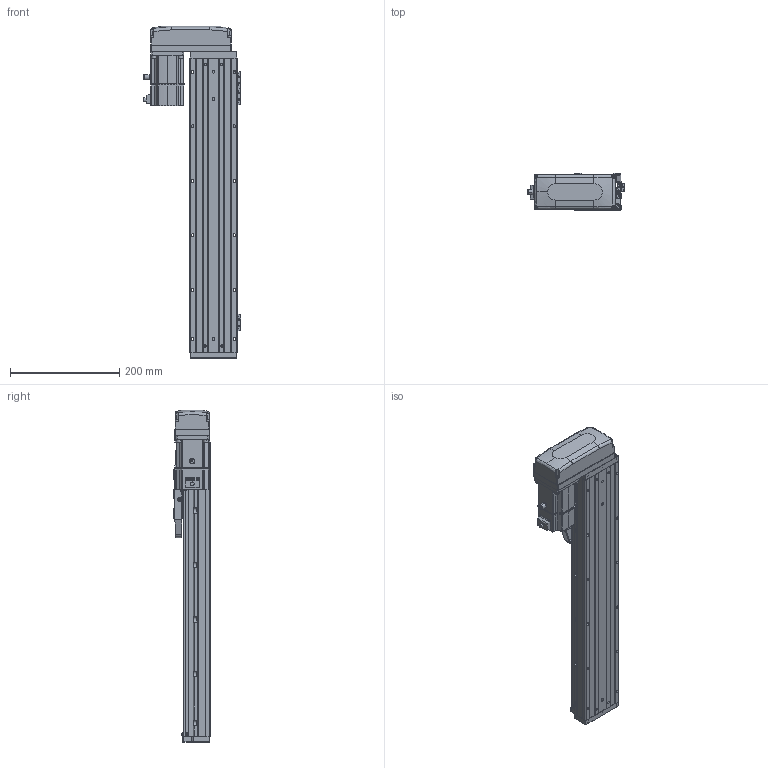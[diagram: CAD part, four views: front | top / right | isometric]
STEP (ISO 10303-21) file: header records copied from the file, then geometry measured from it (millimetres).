
FILE_DESCRIPTION (( 'STEP AP203' ), '1' );
FILE_NAME ('CTHA86-350-BR-M20-C4L.step', '2022-04-26T00:59:39', ( '微软用户' ), ( '微软中国' ), 'SwSTEP 2.0', 'SolidWorks 2020', '' );
FILE_SCHEMA (( 'CONFIG_CONTROL_DESIGN' ));
Length unit declared in the file: millimetre
Products named in the file (21): EE_SX911P_R; GBT 70.1-M3℅6; CTHA86-033; CTHA60-017; CTHA60-016; CTHA86-350-BR-M20-C4L; CTHA60-021; _X2_4E0983F1_X0_200W_1; KTHA86-001_540; GBT77-2000 M3×3; CTHA86-002; KTHA86-004; GBT 70.1-M3×20; CTHA86-030; CTHA86-031; KTHA86-005; GBT70.1 M5℅16; GBT 70.3-M3℅6; GB¨uT 70.2-M3¡Á5_M3¡Á6; GBT 70.1-M3×16; CTHA86-015-1_CTHA86-015-2
Assembly tree (66 placements, depth 2):
  CTHA86-350-BR-M20-C4L
    KTHA86-001_540
    KTHA86-004
    KTHA86-005
    GB¨uT 70.2-M3¡Á5_M3¡Á6  x10
    EE_SX911P_R  x3
    CTHA60-017  x3
    CTHA60-021  x2
    GBT77-2000 M3×3  x6
    GBT 70.1-M3×20
    GBT70.1 M5℅16  x14
    GBT 70.1-M3×16  x5
    GBT 70.1-M3℅6  x6
    CTHA60-016  x2
    _X2_4E0983F1_X0_200W_1
    CTHA86-002
    CTHA86-031
    CTHA86-030  x2
    GBT 70.3-M3℅6  x4
    CTHA86-015-1_CTHA86-015-2
    CTHA86-033
Bounding box: 178.52 x 68 x 609 mm (x, y, z)
Volume: 2662709.3 mm3; surface area: 472423.3 mm2
Topology: 68 solids, 68 shells, 2726 faces, 6484 edges, 3988 vertices
Faces by surface type: plane 1427, cylinder 705, cone 363, torus 132, bspline 75, sphere 24
Entity records: 47143 total; most frequent: CARTESIAN_POINT 9171, DIRECTION 7299, ORIENTED_EDGE 7068, EDGE_CURVE 3534, AXIS2_PLACEMENT_3D 2500, LINE 2299, VECTOR 2299, VERTEX_POINT 2220
